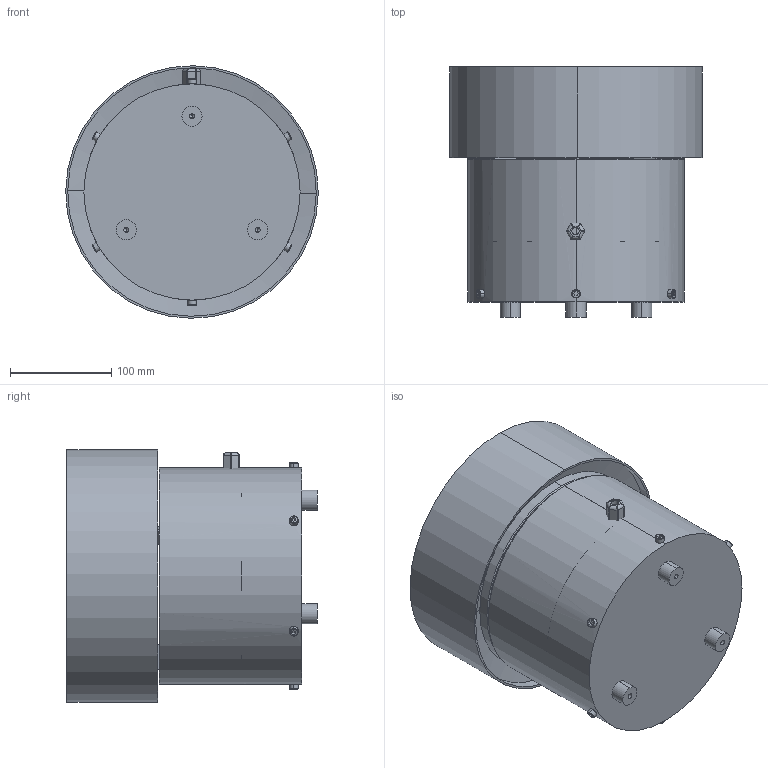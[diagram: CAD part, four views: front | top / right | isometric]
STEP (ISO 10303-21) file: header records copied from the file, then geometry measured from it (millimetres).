
FILE_DESCRIPTION (( 'STEP AP214' ), '1' );
FILE_NAME ('PW250_Q250x90_PRAWY_WIBRAMET.STEP', '2020-10-27T11:23:22', ( '' ), ( '' ), 'SwSTEP 2.0', 'SolidWorks 2017', '' );
FILE_SCHEMA (( 'AUTOMOTIVE_DESIGN' ));
Length unit declared in the file: millimetre
Products named in the file (5): socket head cap screw_iso_ISO 4762 M10 x 30 - 30N; Q250x90P-30-20; PW250-00.22[Podk³adka]; PW250_WIBRAMET; PW250_Q250x90_PRAWY_WIBRAMET
Assembly tree (4 placements, depth 2):
  PW250_Q250x90_PRAWY_WIBRAMET
    PW250_WIBRAMET
    Q250x90P-30-20
    PW250-00.22[Podk³adka]
    socket head cap screw_iso_ISO 4762 M10 x 30 - 30N
Bounding box: 249.98 x 247.65 x 249.98 mm (x, y, z)
Volume: 3020098.6 mm3; surface area: 617500.2 mm2
Topology: 5 solids, 5 shells, 267 faces, 604 edges, 354 vertices
Faces by surface type: plane 100, cylinder 77, bspline 41, cone 26, torus 16, sphere 7
Entity records: 14121 total; most frequent: CARTESIAN_POINT 8005, ORIENTED_EDGE 1172, DIRECTION 1127, EDGE_CURVE 586, AXIS2_PLACEMENT_3D 416, VERTEX_POINT 354, EDGE_LOOP 304, VECTOR 295
